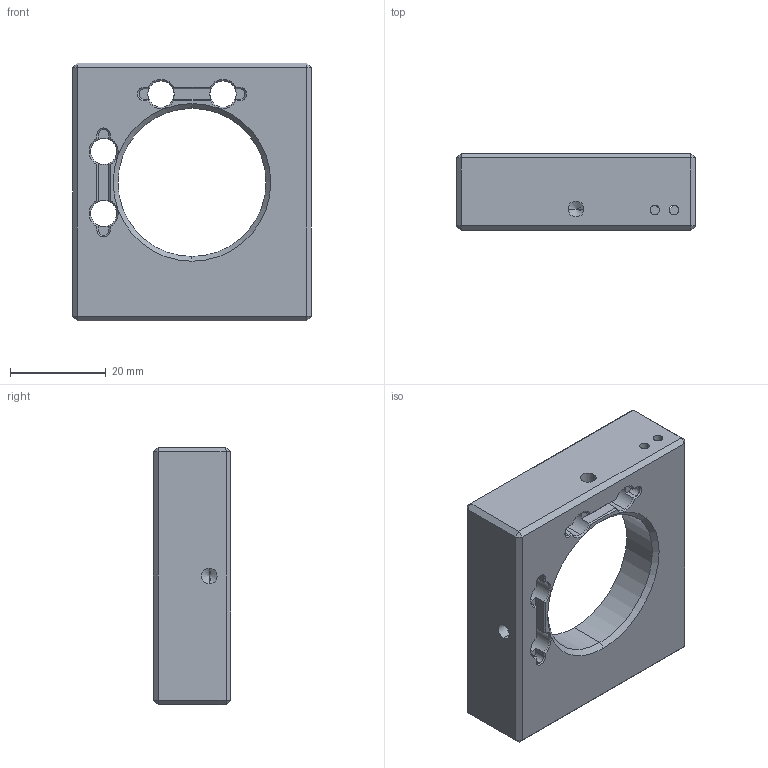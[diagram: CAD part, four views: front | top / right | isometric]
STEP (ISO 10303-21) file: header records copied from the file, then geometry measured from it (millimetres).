
FILE_DESCRIPTION (( 'STEP AP214' ), '1' );
FILE_NAME ('1.STEP', '2025-10-15T09:21:17', ( '' ), ( '' ), 'SwSTEP 2.0', 'SolidWorks 2024', '' );
FILE_SCHEMA (( 'AUTOMOTIVE_DESIGN' ));
Length unit declared in the file: millimetre
Products named in the file (1): 1
Bounding box: 50 x 16.2 x 54 mm (x, y, z)
Volume: 17526 mm3; surface area: 10652 mm2
Topology: 1 solids, 1 shells, 155 faces, 396 edges, 235 vertices
Faces by surface type: plane 73, cylinder 46, cone 36
Entity records: 4679 total; most frequent: CARTESIAN_POINT 841, DIRECTION 838, ORIENTED_EDGE 780, EDGE_CURVE 390, AXIS2_PLACEMENT_3D 312, VERTEX_POINT 235, LINE 214, VECTOR 214
